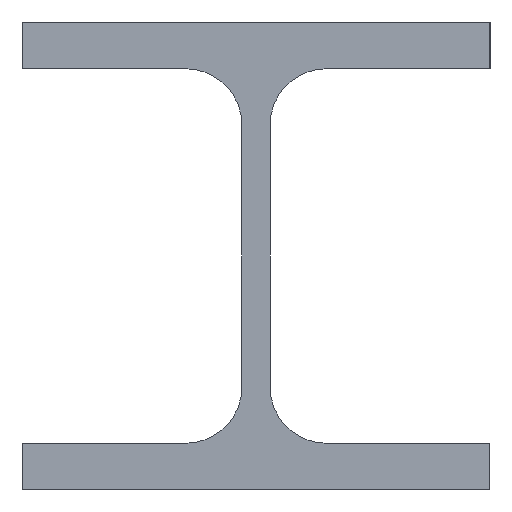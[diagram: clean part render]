
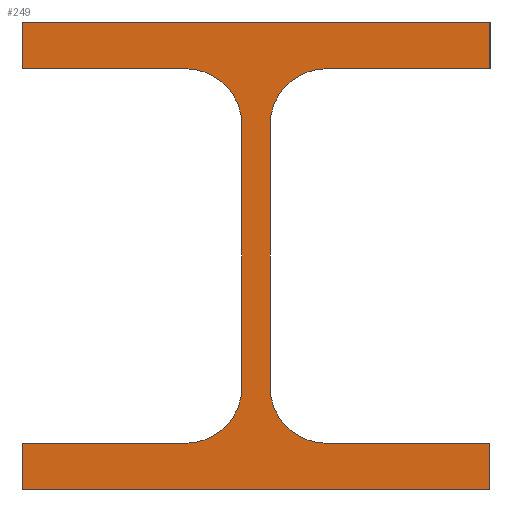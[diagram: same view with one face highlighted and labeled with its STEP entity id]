
A CAD part, left-side view. The second image highlights one B-rep face of the part: STEP entity #249.
In plain terms, the highlighted planar face has unit normal (-1, 0, 0).
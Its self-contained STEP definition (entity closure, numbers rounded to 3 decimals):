
#58 = ORIENTED_EDGE ( 'NONE', *, *, #3727, .T. ) ;
#59 = CARTESIAN_POINT ( 'NONE',  ( 7855., 747., 4158. ) ) ;
#83 = DIRECTION ( 'NONE',  ( 0., -1., 0. ) ) ;
#99 = ORIENTED_EDGE ( 'NONE', *, *, #2047, .T. ) ;
#145 = CARTESIAN_POINT ( 'NONE',  ( 7855., 735., 4102. ) ) ;
#152 = VECTOR ( 'NONE', #83, 1000. ) ;
#211 = CARTESIAN_POINT ( 'NONE',  ( 7855., 1325., 4085. ) ) ;
#214 = VERTEX_POINT ( 'NONE', #3156 ) ;
#248 = DIRECTION ( 'NONE',  ( 0., 0., 1. ) ) ;
#249 = ADVANCED_FACE ( 'NONE', ( #1095 ), #1410, .T. ) ;
#275 = DIRECTION ( 'NONE',  ( 0., 0., -1. ) ) ;
#282 = VECTOR ( 'NONE', #1851, 1000. ) ;
#342 = CARTESIAN_POINT ( 'NONE',  ( 7855., 753., 4158. ) ) ;
#343 = CIRCLE ( 'NONE', #852, 12. ) ;
#344 = CARTESIAN_POINT ( 'NONE',  ( 7855., 700., 4180. ) ) ;
#362 = VERTEX_POINT ( 'NONE', #2470 ) ;
#374 = CARTESIAN_POINT ( 'NONE',  ( 7855., 765., 4102. ) ) ;
#405 = DIRECTION ( 'NONE',  ( 0., -1., 0. ) ) ;
#406 = DIRECTION ( 'NONE',  ( 0., 0., 1. ) ) ;
#466 = LINE ( 'NONE', #507, #1988 ) ;
#507 = CARTESIAN_POINT ( 'NONE',  ( 7855., 700., 4170. ) ) ;
#513 = ORIENTED_EDGE ( 'NONE', *, *, #1467, .T. ) ;
#527 = LINE ( 'NONE', #1735, #1676 ) ;
#536 = VECTOR ( 'NONE', #944, 1000. ) ;
#601 = VECTOR ( 'NONE', #3874, 1000. ) ;
#635 = CARTESIAN_POINT ( 'NONE',  ( 7855., 700., 4090. ) ) ;
#664 = ORIENTED_EDGE ( 'NONE', *, *, #1281, .T. ) ;
#701 = EDGE_CURVE ( 'NONE', #998, #1356, #1305, .T. ) ;
#751 = EDGE_CURVE ( 'NONE', #362, #3515, #466, .T. ) ;
#802 = ORIENTED_EDGE ( 'NONE', *, *, #1659, .T. ) ;
#849 = ORIENTED_EDGE ( 'NONE', *, *, #751, .T. ) ;
#852 = AXIS2_PLACEMENT_3D ( 'NONE', #145, #1363, #1675 ) ;
#865 = CARTESIAN_POINT ( 'NONE',  ( 7855., 765., 4170. ) ) ;
#889 = LINE ( 'NONE', #1795, #3006 ) ;
#911 = ORIENTED_EDGE ( 'NONE', *, *, #1856, .T. ) ;
#936 = ORIENTED_EDGE ( 'NONE', *, *, #2748, .T. ) ;
#944 = DIRECTION ( 'NONE',  ( 0., 1., 0. ) ) ;
#983 = CARTESIAN_POINT ( 'NONE',  ( 7855., 800., 4180. ) ) ;
#998 = VERTEX_POINT ( 'NONE', #3580 ) ;
#1042 = CARTESIAN_POINT ( 'NONE',  ( 7855., 800., 4170. ) ) ;
#1046 = AXIS2_PLACEMENT_3D ( 'NONE', #3478, #3436, #1910 ) ;
#1079 = ORIENTED_EDGE ( 'NONE', *, *, #2773, .T. ) ;
#1080 = ORIENTED_EDGE ( 'NONE', *, *, #2250, .T. ) ;
#1095 = FACE_OUTER_BOUND ( 'NONE', #3585, .T. ) ;
#1106 = CIRCLE ( 'NONE', #3572, 12. ) ;
#1109 = AXIS2_PLACEMENT_3D ( 'NONE', #374, #2472, #2394 ) ;
#1181 = EDGE_CURVE ( 'NONE', #3531, #3474, #1616, .T. ) ;
#1237 = CIRCLE ( 'NONE', #1109, 12. ) ;
#1260 = CARTESIAN_POINT ( 'NONE',  ( 7855., 700., 4180. ) ) ;
#1266 = CARTESIAN_POINT ( 'NONE',  ( 7855., 800., 4080. ) ) ;
#1281 = EDGE_CURVE ( 'NONE', #214, #998, #343, .T. ) ;
#1286 = LINE ( 'NONE', #1266, #152 ) ;
#1305 = LINE ( 'NONE', #2503, #2060 ) ;
#1323 = CARTESIAN_POINT ( 'NONE',  ( 7855., 800., 4170. ) ) ;
#1328 = EDGE_CURVE ( 'NONE', #3515, #1555, #1729, .T. ) ;
#1356 = VERTEX_POINT ( 'NONE', #59 ) ;
#1363 = DIRECTION ( 'NONE',  ( 1., 0., 0. ) ) ;
#1402 = DIRECTION ( 'NONE',  ( 0., 0., 1. ) ) ;
#1410 = PLANE ( 'NONE',  #2750 ) ;
#1435 = LINE ( 'NONE', #2043, #2877 ) ;
#1467 = EDGE_CURVE ( 'NONE', #3153, #1977, #2339, .T. ) ;
#1518 = DIRECTION ( 'NONE',  ( 0., 0., -1. ) ) ;
#1555 = VERTEX_POINT ( 'NONE', #3655 ) ;
#1616 = LINE ( 'NONE', #1323, #1672 ) ;
#1659 = EDGE_CURVE ( 'NONE', #3454, #3153, #889, .T. ) ;
#1672 = VECTOR ( 'NONE', #405, 1000. ) ;
#1675 = DIRECTION ( 'NONE',  ( 0., 0., 1. ) ) ;
#1676 = VECTOR ( 'NONE', #2662, 1000. ) ;
#1703 = CARTESIAN_POINT ( 'NONE',  ( 7855., 800., 4090. ) ) ;
#1711 = EDGE_CURVE ( 'NONE', #1977, #2547, #1286, .T. ) ;
#1729 = LINE ( 'NONE', #1260, #536 ) ;
#1735 = CARTESIAN_POINT ( 'NONE',  ( 7855., 735., 4170. ) ) ;
#1747 = CARTESIAN_POINT ( 'NONE',  ( 7855., 800., 4090. ) ) ;
#1795 = CARTESIAN_POINT ( 'NONE',  ( 7855., 765., 4090. ) ) ;
#1813 = LINE ( 'NONE', #2426, #2186 ) ;
#1851 = DIRECTION ( 'NONE',  ( 0., 0., -1. ) ) ;
#1856 = EDGE_CURVE ( 'NONE', #3306, #214, #2046, .T. ) ;
#1905 = VERTEX_POINT ( 'NONE', #342 ) ;
#1910 = DIRECTION ( 'NONE',  ( 0., 0., 1. ) ) ;
#1977 = VERTEX_POINT ( 'NONE', #2581 ) ;
#1988 = VECTOR ( 'NONE', #1402, 1000. ) ;
#2009 = CARTESIAN_POINT ( 'NONE',  ( 7855., 735., 4170. ) ) ;
#2022 = ORIENTED_EDGE ( 'NONE', *, *, #701, .T. ) ;
#2043 = CARTESIAN_POINT ( 'NONE',  ( 7855., 700., 4080. ) ) ;
#2046 = LINE ( 'NONE', #3577, #601 ) ;
#2047 = EDGE_CURVE ( 'NONE', #2547, #3306, #1435, .T. ) ;
#2060 = VECTOR ( 'NONE', #406, 1000. ) ;
#2186 = VECTOR ( 'NONE', #1518, 1000. ) ;
#2217 = ORIENTED_EDGE ( 'NONE', *, *, #2650, .T. ) ;
#2245 = CIRCLE ( 'NONE', #1046, 12. ) ;
#2250 = EDGE_CURVE ( 'NONE', #1356, #2891, #1106, .T. ) ;
#2283 = CARTESIAN_POINT ( 'NONE',  ( 7855., 735., 4158. ) ) ;
#2297 = ORIENTED_EDGE ( 'NONE', *, *, #1181, .T. ) ;
#2339 = LINE ( 'NONE', #1747, #2682 ) ;
#2356 = DIRECTION ( 'NONE',  ( 0., 0., 1. ) ) ;
#2373 = DIRECTION ( 'NONE',  ( -1., 0., 0. ) ) ;
#2394 = DIRECTION ( 'NONE',  ( 0., 0., 1. ) ) ;
#2426 = CARTESIAN_POINT ( 'NONE',  ( 7855., 753., 4158. ) ) ;
#2435 = ORIENTED_EDGE ( 'NONE', *, *, #3533, .T. ) ;
#2470 = CARTESIAN_POINT ( 'NONE',  ( 7855., 700., 4170. ) ) ;
#2472 = DIRECTION ( 'NONE',  ( 1., 0., 0. ) ) ;
#2503 = CARTESIAN_POINT ( 'NONE',  ( 7855., 747., 4102. ) ) ;
#2547 = VERTEX_POINT ( 'NONE', #3608 ) ;
#2577 = DIRECTION ( 'NONE',  ( 0., 0., 1. ) ) ;
#2581 = CARTESIAN_POINT ( 'NONE',  ( 7855., 800., 4080. ) ) ;
#2650 = EDGE_CURVE ( 'NONE', #2891, #362, #527, .T. ) ;
#2662 = DIRECTION ( 'NONE',  ( 0., -1., 0. ) ) ;
#2667 = CARTESIAN_POINT ( 'NONE',  ( 7855., 753., 4102. ) ) ;
#2682 = VECTOR ( 'NONE', #275, 1000. ) ;
#2748 = EDGE_CURVE ( 'NONE', #1905, #3921, #1813, .T. ) ;
#2750 = AXIS2_PLACEMENT_3D ( 'NONE', #211, #2373, #248 ) ;
#2773 = EDGE_CURVE ( 'NONE', #3474, #1905, #2245, .T. ) ;
#2877 = VECTOR ( 'NONE', #2356, 1000. ) ;
#2891 = VERTEX_POINT ( 'NONE', #2009 ) ;
#3006 = VECTOR ( 'NONE', #3919, 1000. ) ;
#3153 = VERTEX_POINT ( 'NONE', #1703 ) ;
#3156 = CARTESIAN_POINT ( 'NONE',  ( 7855., 735., 4090. ) ) ;
#3211 = CARTESIAN_POINT ( 'NONE',  ( 7855., 765., 4090. ) ) ;
#3306 = VERTEX_POINT ( 'NONE', #635 ) ;
#3413 = ORIENTED_EDGE ( 'NONE', *, *, #1711, .T. ) ;
#3436 = DIRECTION ( 'NONE',  ( 1., 0., 0. ) ) ;
#3454 = VERTEX_POINT ( 'NONE', #3211 ) ;
#3474 = VERTEX_POINT ( 'NONE', #865 ) ;
#3478 = CARTESIAN_POINT ( 'NONE',  ( 7855., 765., 4158. ) ) ;
#3515 = VERTEX_POINT ( 'NONE', #344 ) ;
#3531 = VERTEX_POINT ( 'NONE', #1042 ) ;
#3533 = EDGE_CURVE ( 'NONE', #1555, #3531, #3698, .T. ) ;
#3572 = AXIS2_PLACEMENT_3D ( 'NONE', #2283, #3812, #2577 ) ;
#3577 = CARTESIAN_POINT ( 'NONE',  ( 7855., 700., 4090. ) ) ;
#3580 = CARTESIAN_POINT ( 'NONE',  ( 7855., 747., 4102. ) ) ;
#3585 = EDGE_LOOP ( 'NONE', ( #2217, #849, #3735, #2435, #2297, #1079, #936, #58, #802, #513, #3413, #99, #911, #664, #2022, #1080 ) ) ;
#3608 = CARTESIAN_POINT ( 'NONE',  ( 7855., 700., 4080. ) ) ;
#3655 = CARTESIAN_POINT ( 'NONE',  ( 7855., 800., 4180. ) ) ;
#3698 = LINE ( 'NONE', #983, #282 ) ;
#3727 = EDGE_CURVE ( 'NONE', #3921, #3454, #1237, .T. ) ;
#3735 = ORIENTED_EDGE ( 'NONE', *, *, #1328, .T. ) ;
#3812 = DIRECTION ( 'NONE',  ( 1., 0., 0. ) ) ;
#3874 = DIRECTION ( 'NONE',  ( 0., 1., 0. ) ) ;
#3919 = DIRECTION ( 'NONE',  ( 0., 1., 0. ) ) ;
#3921 = VERTEX_POINT ( 'NONE', #2667 ) ;
